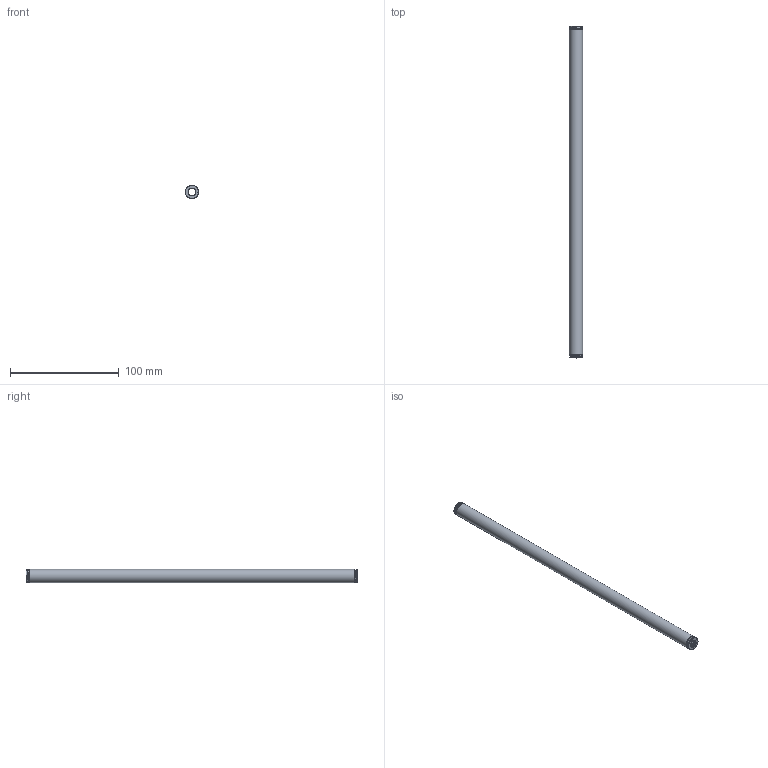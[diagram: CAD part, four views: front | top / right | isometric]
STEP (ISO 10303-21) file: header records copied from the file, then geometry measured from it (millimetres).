
FILE_DESCRIPTION(/* description */ ('Max 37,5% | 114.4 | 275'),/* implementation_level */ '2;1');
FILE_NAME(/* name */ '2S13303.step',/* time_stamp */ '2026-10-07T11:26:14+02:00',/* author */ ('2S'),/* organization */ ('2,5x1,7 prostokatny'),/* preprocessor_version */ 'ST-DEVELOPER v20.1',/* originating_system */ 'Autodesk Inventor 2026',/* authorisation */ '2.4');
FILE_SCHEMA (('AUTOMOTIVE_DESIGN { 1 0 10303 214 3 1 1 }'));
Length unit declared in the file: millimetre
Products named in the file (1): 2S13303
Bounding box: 12.21 x 305 x 12.2 mm (x, y, z)
Volume: 23047.4 mm3; surface area: 18967.8 mm2
Topology: 1 solids, 1 shells, 22 faces, 68 edges, 42 vertices
Faces by surface type: bspline 14, plane 6, cylinder 2
Full cylindrical faces by diameter (mm): 7.199 x1, 12.201 x1
Entity records: 2577 total; most frequent: CARTESIAN_POINT 2101, ORIENTED_EDGE 120, EDGE_CURVE 60, B_SPLINE_CURVE_WITH_KNOTS 48, VERTEX_POINT 38, DIRECTION 34, EDGE_LOOP 26, FACE_OUTER_BOUND 22
